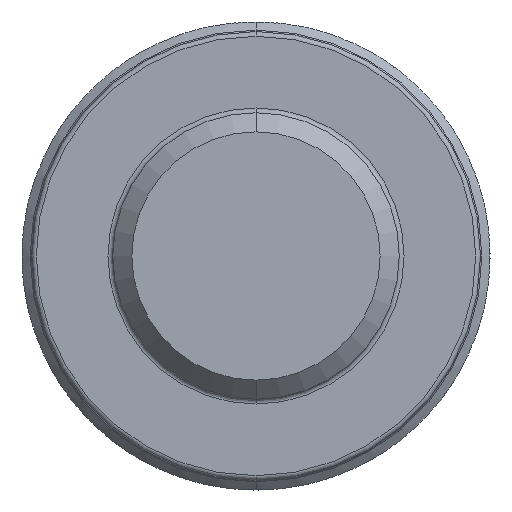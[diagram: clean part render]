
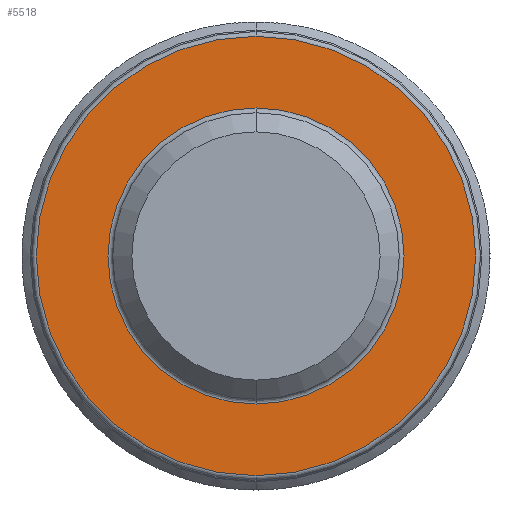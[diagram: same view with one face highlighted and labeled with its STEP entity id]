
A CAD part, front view. The second image highlights one B-rep face of the part: STEP entity #5518.
In plain terms, the highlighted planar face has unit normal (0, -1, 0).
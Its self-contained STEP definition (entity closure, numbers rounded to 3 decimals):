
#136 = FACE_BOUND ( 'NONE', #6635, .T. ) ;
#309 = DIRECTION ( 'NONE',  ( 0., -1., 0. ) ) ;
#341 = CARTESIAN_POINT ( 'NONE',  ( 0., -6., 0. ) ) ;
#349 = CIRCLE ( 'NONE', #7484, 4.6 ) ;
#755 = DIRECTION ( 'NONE',  ( 0., 0., -1. ) ) ;
#921 = DIRECTION ( 'NONE',  ( 0., 1., 0. ) ) ;
#1320 = DIRECTION ( 'NONE',  ( 0., 0., -1. ) ) ;
#1405 = CARTESIAN_POINT ( 'NONE',  ( 0., -6., 0. ) ) ;
#1458 = EDGE_CURVE ( 'NONE', #1660, #2682, #2522, .T. ) ;
#1660 = VERTEX_POINT ( 'NONE', #2694 ) ;
#1740 = EDGE_LOOP ( 'NONE', ( #5728, #3224 ) ) ;
#1840 = AXIS2_PLACEMENT_3D ( 'NONE', #4728, #6788, #2118 ) ;
#2118 = DIRECTION ( 'NONE',  ( 0., 0., -1. ) ) ;
#2206 = CARTESIAN_POINT ( 'NONE',  ( 3., -6., 0. ) ) ;
#2253 = FACE_OUTER_BOUND ( 'NONE', #1740, .T. ) ;
#2423 = DIRECTION ( 'NONE',  ( 0., -1., 0. ) ) ;
#2522 = CIRCLE ( 'NONE', #1840, 4.6 ) ;
#2682 = VERTEX_POINT ( 'NONE', #3729 ) ;
#2694 = CARTESIAN_POINT ( 'NONE',  ( 0., -6., 4.6 ) ) ;
#2724 = CARTESIAN_POINT ( 'NONE',  ( 0., -6., -3.1 ) ) ;
#2777 = AXIS2_PLACEMENT_3D ( 'NONE', #341, #921, #2917 ) ;
#2917 = DIRECTION ( 'NONE',  ( 0., 0., -1. ) ) ;
#3224 = ORIENTED_EDGE ( 'NONE', *, *, #1458, .T. ) ;
#3350 = DIRECTION ( 'NONE',  ( 0., 1., 0. ) ) ;
#3672 = EDGE_CURVE ( 'NONE', #6020, #4429, #7073, .T. ) ;
#3729 = CARTESIAN_POINT ( 'NONE',  ( 0., -6., -4.6 ) ) ;
#4249 = AXIS2_PLACEMENT_3D ( 'NONE', #2206, #309, #755 ) ;
#4410 = DIRECTION ( 'NONE',  ( 0., 0., -1. ) ) ;
#4429 = VERTEX_POINT ( 'NONE', #4519 ) ;
#4519 = CARTESIAN_POINT ( 'NONE',  ( 0., -6., 3.1 ) ) ;
#4728 = CARTESIAN_POINT ( 'NONE',  ( 0., -6., 0. ) ) ;
#5187 = CIRCLE ( 'NONE', #8048, 3.1 ) ;
#5518 = ADVANCED_FACE ( 'NONE', ( #136, #2253 ), #6666, .T. ) ;
#5728 = ORIENTED_EDGE ( 'NONE', *, *, #7978, .T. ) ;
#6020 = VERTEX_POINT ( 'NONE', #2724 ) ;
#6220 = ORIENTED_EDGE ( 'NONE', *, *, #3672, .T. ) ;
#6635 = EDGE_LOOP ( 'NONE', ( #6220, #7334 ) ) ;
#6666 = PLANE ( 'NONE',  #4249 ) ;
#6788 = DIRECTION ( 'NONE',  ( 0., -1., 0. ) ) ;
#7073 = CIRCLE ( 'NONE', #2777, 3.1 ) ;
#7334 = ORIENTED_EDGE ( 'NONE', *, *, #8022, .T. ) ;
#7484 = AXIS2_PLACEMENT_3D ( 'NONE', #8186, #2423, #4410 ) ;
#7978 = EDGE_CURVE ( 'NONE', #2682, #1660, #349, .T. ) ;
#8022 = EDGE_CURVE ( 'NONE', #4429, #6020, #5187, .T. ) ;
#8048 = AXIS2_PLACEMENT_3D ( 'NONE', #1405, #3350, #1320 ) ;
#8186 = CARTESIAN_POINT ( 'NONE',  ( 0., -6., 0. ) ) ;
